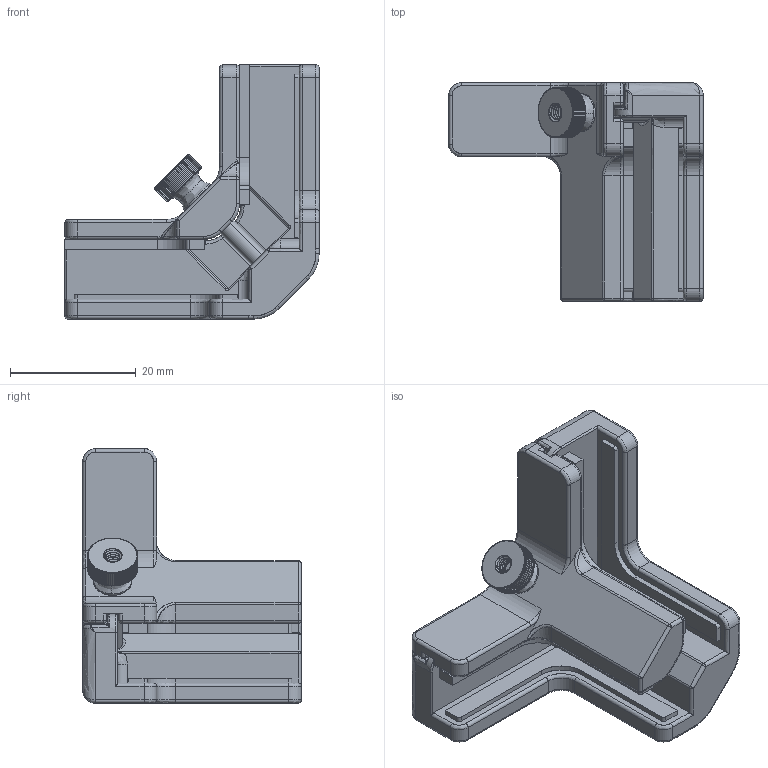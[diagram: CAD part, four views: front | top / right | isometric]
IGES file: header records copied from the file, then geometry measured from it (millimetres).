
Start section: SolidWorks IGES file using analytic representation for surfaces
Global section: file name: C:\Users\tloewy\Documents\TIP\_EVT Design\Drawings\Tiling\RevA\935-0424-00_A_Edge Tiling for Corner Configuration.igs; native system: SolidWorks 2016; preprocessor: SolidWorks 2016; author: tloewy; date: 160519.095056; units: millimetre
Bounding box: 40.42 x 34.75 x 40.42 mm (x, y, z)
Surface area: 9568.9 mm2 (no closed solid volume)
Topology: 0 solids, 0 shells, 987 faces, 6846 edges, 6767 vertices
Faces by surface type: bspline 525, revolution 462
